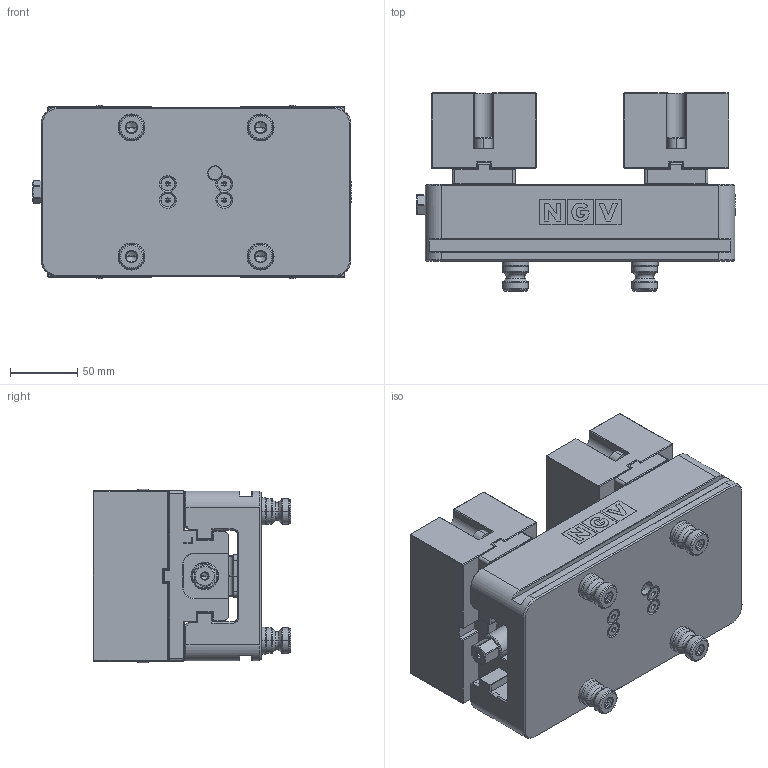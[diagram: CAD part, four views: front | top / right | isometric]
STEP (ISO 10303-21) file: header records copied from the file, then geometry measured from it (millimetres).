
FILE_DESCRIPTION((''),'2;1');
FILE_NAME('SJV126M_00_0_ASM','2025-06-26T',('tibi'),(''),'PRO/ENGINEER BY PARAMETRIC TECHNOLOGY CORPORATION, 2010280','PRO/ENGINEER BY PARAMETRIC TECHNOLOGY CORPORATION, 2010280','');
FILE_SCHEMA(('CONFIG_CONTROL_DESIGN'));
Length unit declared in the file: millimetre
Products named in the file (12): CORP_1; SEMICUPLA; SURUB_1; INEL_O_15X1SI8_INST; SURUB_M5X20; PIN_CENTRARE_20; STIFT_FILETAT_M10X24; BJSM126-1-01-0_SANIE; BJSM126-1-02-0_SANIE_STANGA; BJSM126-1-03-0_BAC_MOALE_OTEL; SURUB_CAP_INBUS_M8X25; SJV126M_00_0_ASM
Assembly tree (26 placements, depth 2):
  SJV126M_00_0_ASM
    CORP_1
    SEMICUPLA  x2
    SURUB_1
    INEL_O_15X1SI8_INST  x2
    SURUB_M5X20  x4
    PIN_CENTRARE_20  x4
    STIFT_FILETAT_M10X24  x4
    BJSM126-1-01-0_SANIE
    BJSM126-1-02-0_SANIE_STANGA
    BJSM126-1-03-0_BAC_MOALE_OTEL  x2
    SURUB_CAP_INBUS_M8X25  x4
Bounding box: 237 x 147 x 129 mm (x, y, z)
Volume: 2516446.6 mm3; surface area: 339181.2 mm2
Topology: 26 solids, 54 shells, 1841 faces, 4540 edges, 2789 vertices
Faces by surface type: plane 1002, cylinder 368, cone 337, torus 84, extrusion 38, bspline 12
Entity records: 37190 total; most frequent: CARTESIAN_POINT 7707, DIRECTION 6025, ORIENTED_EDGE 6014, EDGE_CURVE 3041, VECTOR 2133, LINE 2095, AXIS2_PLACEMENT_3D 1946, VERTEX_POINT 1900
